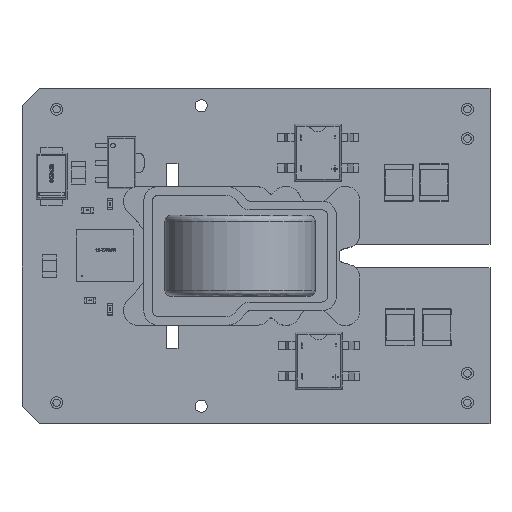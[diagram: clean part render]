
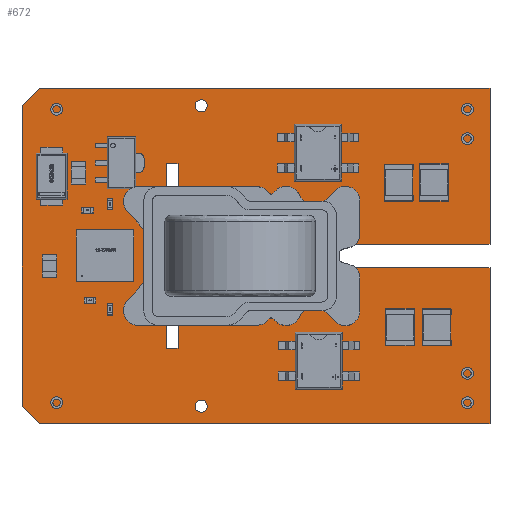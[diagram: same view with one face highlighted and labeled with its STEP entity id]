
A CAD part, top view. The second image highlights one B-rep face of the part: STEP entity #672.
In plain terms, the highlighted planar face has unit normal (0, 0, 1).
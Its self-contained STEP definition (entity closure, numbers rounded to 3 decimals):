
#177 = VERTEX_POINT('',#178);
#178 = CARTESIAN_POINT('',(7.767,11.019,0.));
#195 = VERTEX_POINT('',#196);
#196 = CARTESIAN_POINT('',(9.267,12.519,0.));
#202 = EDGE_CURVE('',#177,#195,#203,.T.);
#203 = LINE('',#204,#205);
#204 = CARTESIAN_POINT('',(7.767,11.019,0.));
#205 = VECTOR('',#206,1.);
#206 = DIRECTION('',(0.707,0.707,0.));
#226 = VERTEX_POINT('',#227);
#227 = CARTESIAN_POINT('',(48.267,12.519,0.));
#233 = EDGE_CURVE('',#195,#226,#234,.T.);
#234 = LINE('',#235,#236);
#235 = CARTESIAN_POINT('',(9.267,12.519,0.));
#236 = VECTOR('',#237,1.);
#237 = DIRECTION('',(1.,0.,0.));
#257 = VERTEX_POINT('',#258);
#258 = CARTESIAN_POINT('',(48.267,-0.981,0.));
#264 = EDGE_CURVE('',#226,#257,#265,.T.);
#265 = LINE('',#266,#267);
#266 = CARTESIAN_POINT('',(48.267,12.519,0.));
#267 = VECTOR('',#268,1.);
#268 = DIRECTION('',(0.,-1.,0.));
#288 = VERTEX_POINT('',#289);
#289 = CARTESIAN_POINT('',(26.267,-0.981,0.));
#295 = EDGE_CURVE('',#257,#288,#296,.T.);
#296 = LINE('',#297,#298);
#297 = CARTESIAN_POINT('',(48.267,-0.981,0.));
#298 = VECTOR('',#299,1.);
#299 = DIRECTION('',(-1.,0.,0.));
#319 = VERTEX_POINT('',#320);
#320 = CARTESIAN_POINT('',(26.267,-2.981,0.));
#326 = EDGE_CURVE('',#288,#319,#327,.T.);
#327 = LINE('',#328,#329);
#328 = CARTESIAN_POINT('',(26.267,-0.981,0.));
#329 = VECTOR('',#330,1.);
#330 = DIRECTION('',(0.,-1.,0.));
#350 = VERTEX_POINT('',#351);
#351 = CARTESIAN_POINT('',(48.267,-2.981,0.));
#357 = EDGE_CURVE('',#319,#350,#358,.T.);
#358 = LINE('',#359,#360);
#359 = CARTESIAN_POINT('',(26.267,-2.981,0.));
#360 = VECTOR('',#361,1.);
#361 = DIRECTION('',(1.,0.,0.));
#381 = VERTEX_POINT('',#382);
#382 = CARTESIAN_POINT('',(48.267,-16.481,0.));
#388 = EDGE_CURVE('',#350,#381,#389,.T.);
#389 = LINE('',#390,#391);
#390 = CARTESIAN_POINT('',(48.267,-2.981,0.));
#391 = VECTOR('',#392,1.);
#392 = DIRECTION('',(0.,-1.,0.));
#412 = VERTEX_POINT('',#413);
#413 = CARTESIAN_POINT('',(9.267,-16.481,0.));
#419 = EDGE_CURVE('',#381,#412,#420,.T.);
#420 = LINE('',#421,#422);
#421 = CARTESIAN_POINT('',(48.267,-16.481,0.));
#422 = VECTOR('',#423,1.);
#423 = DIRECTION('',(-1.,0.,0.));
#443 = VERTEX_POINT('',#444);
#444 = CARTESIAN_POINT('',(7.767,-14.981,0.));
#450 = EDGE_CURVE('',#412,#443,#451,.T.);
#451 = LINE('',#452,#453);
#452 = CARTESIAN_POINT('',(9.267,-16.481,0.));
#453 = VECTOR('',#454,1.);
#454 = DIRECTION('',(-0.707,0.707,0.));
#472 = EDGE_CURVE('',#443,#177,#473,.T.);
#473 = LINE('',#474,#475);
#474 = CARTESIAN_POINT('',(7.767,-14.981,0.));
#475 = VECTOR('',#476,1.);
#476 = DIRECTION('',(0.,1.,0.));
#487 = VERTEX_POINT('',#488);
#488 = CARTESIAN_POINT('',(23.792,-14.981,0.));
#504 = EDGE_CURVE('',#487,#487,#505,.T.);
#505 = CIRCLE('',#506,0.525);
#506 = AXIS2_PLACEMENT_3D('',#507,#508,#509);
#507 = CARTESIAN_POINT('',(23.267,-14.981,0.));
#508 = DIRECTION('',(0.,0.,-1.));
#509 = DIRECTION('',(1.,0.,0.));
#520 = VERTEX_POINT('',#521);
#521 = CARTESIAN_POINT('',(23.792,11.019,0.));
#537 = EDGE_CURVE('',#520,#520,#538,.T.);
#538 = CIRCLE('',#539,0.525);
#539 = AXIS2_PLACEMENT_3D('',#540,#541,#542);
#540 = CARTESIAN_POINT('',(23.267,11.019,0.));
#541 = DIRECTION('',(0.,0.,-1.));
#542 = DIRECTION('',(1.,0.,0.));
#553 = VERTEX_POINT('',#554);
#554 = CARTESIAN_POINT('',(20.267,6.019,0.));
#571 = VERTEX_POINT('',#572);
#572 = CARTESIAN_POINT('',(21.267,6.019,0.));
#578 = EDGE_CURVE('',#553,#571,#579,.T.);
#579 = LINE('',#580,#581);
#580 = CARTESIAN_POINT('',(20.267,6.019,0.));
#581 = VECTOR('',#582,1.);
#582 = DIRECTION('',(1.,0.,0.));
#602 = VERTEX_POINT('',#603);
#603 = CARTESIAN_POINT('',(21.267,-9.981,0.));
#609 = EDGE_CURVE('',#571,#602,#610,.T.);
#610 = LINE('',#611,#612);
#611 = CARTESIAN_POINT('',(21.267,6.019,0.));
#612 = VECTOR('',#613,1.);
#613 = DIRECTION('',(0.,-1.,0.));
#633 = VERTEX_POINT('',#634);
#634 = CARTESIAN_POINT('',(20.267,-9.981,0.));
#640 = EDGE_CURVE('',#602,#633,#641,.T.);
#641 = LINE('',#642,#643);
#642 = CARTESIAN_POINT('',(21.267,-9.981,0.));
#643 = VECTOR('',#644,1.);
#644 = DIRECTION('',(-1.,0.,0.));
#662 = EDGE_CURVE('',#633,#553,#663,.T.);
#663 = LINE('',#664,#665);
#664 = CARTESIAN_POINT('',(20.267,-9.981,0.));
#665 = VECTOR('',#666,1.);
#666 = DIRECTION('',(0.,1.,0.));
#672 = ADVANCED_FACE('',(#673,#685,#688,#691),#697,.T.);
#673 = FACE_BOUND('',#674,.F.);
#674 = EDGE_LOOP('',(#675,#676,#677,#678,#679,#680,#681,#682,#683,#684)
  );
#675 = ORIENTED_EDGE('',*,*,#202,.T.);
#676 = ORIENTED_EDGE('',*,*,#233,.T.);
#677 = ORIENTED_EDGE('',*,*,#264,.T.);
#678 = ORIENTED_EDGE('',*,*,#295,.T.);
#679 = ORIENTED_EDGE('',*,*,#326,.T.);
#680 = ORIENTED_EDGE('',*,*,#357,.T.);
#681 = ORIENTED_EDGE('',*,*,#388,.T.);
#682 = ORIENTED_EDGE('',*,*,#419,.T.);
#683 = ORIENTED_EDGE('',*,*,#450,.T.);
#684 = ORIENTED_EDGE('',*,*,#472,.T.);
#685 = FACE_BOUND('',#686,.F.);
#686 = EDGE_LOOP('',(#687));
#687 = ORIENTED_EDGE('',*,*,#504,.T.);
#688 = FACE_BOUND('',#689,.F.);
#689 = EDGE_LOOP('',(#690));
#690 = ORIENTED_EDGE('',*,*,#537,.T.);
#691 = FACE_BOUND('',#692,.F.);
#692 = EDGE_LOOP('',(#693,#694,#695,#696));
#693 = ORIENTED_EDGE('',*,*,#578,.T.);
#694 = ORIENTED_EDGE('',*,*,#609,.T.);
#695 = ORIENTED_EDGE('',*,*,#640,.T.);
#696 = ORIENTED_EDGE('',*,*,#662,.T.);
#697 = PLANE('',#698);
#698 = AXIS2_PLACEMENT_3D('',#699,#700,#701);
#699 = CARTESIAN_POINT('',(7.767,11.019,0.));
#700 = DIRECTION('',(0.,0.,1.));
#701 = DIRECTION('',(1.,0.,0.));
